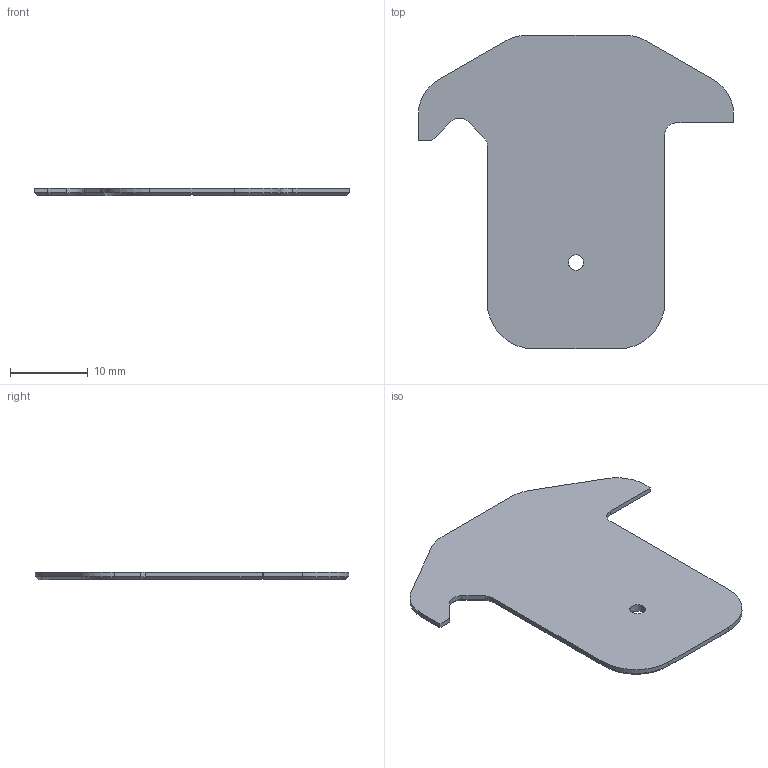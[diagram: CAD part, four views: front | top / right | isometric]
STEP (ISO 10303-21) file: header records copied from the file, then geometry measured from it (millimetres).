
FILE_DESCRIPTION((''),'2;1');
FILE_NAME('CPZ-S_2','2020-10-14T',('Administrator'),(''),'CREO PARAMETRIC BY PTC INC, 2017300','CREO PARAMETRIC BY PTC INC, 2017300','');
FILE_SCHEMA(('CONFIG_CONTROL_DESIGN'));
Length unit declared in the file: millimetre
Products named in the file (1): CPZ-S_2
Bounding box: 40.64 x 40.42 x 1 mm (x, y, z)
Volume: 1004.8 mm3; surface area: 2198.4 mm2
Topology: 1 solids, 1 shells, 152 faces, 389 edges, 251 vertices
Faces by surface type: plane 96, cylinder 45, cone 11
Entity records: 4631 total; most frequent: CARTESIAN_POINT 805, DIRECTION 799, ORIENTED_EDGE 778, EDGE_CURVE 389, VECTOR 277, LINE 277, AXIS2_PLACEMENT_3D 261, VERTEX_POINT 251
